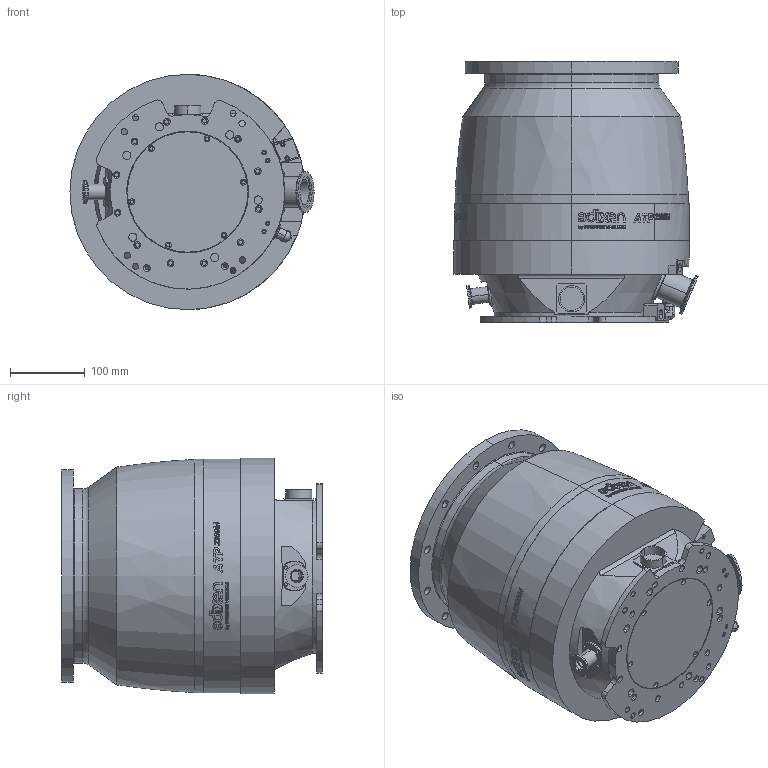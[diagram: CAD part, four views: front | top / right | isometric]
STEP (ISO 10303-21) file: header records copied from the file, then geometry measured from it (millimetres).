
FILE_DESCRIPTION((''),'2;1');
FILE_NAME('ENV-ATP2300M-T2562100','2012-12-11T',('RCRIADO'),(''),'PRO/ENGINEER BY PARAMETRIC TECHNOLOGY CORPORATION, 2011490','PRO/ENGINEER BY PARAMETRIC TECHNOLOGY CORPORATION, 2011490','');
FILE_SCHEMA(('CONFIG_CONTROL_DESIGN'));
Products named in the file (1): ENV-ATP2300M-T2562100
Bounding box: 326.69 x 349.2 x 315 mm (x, y, z)
Volume: 22128595.9 mm3; surface area: 668920.3 mm2
Topology: 3 solids, 3 shells, 2604 faces, 7047 edges, 4645 vertices
Faces by surface type: bspline 1357, plane 703, cylinder 435, cone 72, torus 36, sphere 1
Entity records: 109948 total; most frequent: CARTESIAN_POINT 51982, ORIENTED_EDGE 14084, DIRECTION 8418, EDGE_CURVE 7042, VERTEX_POINT 4644, VECTOR 3074, LINE 3074, EDGE_LOOP 2868
